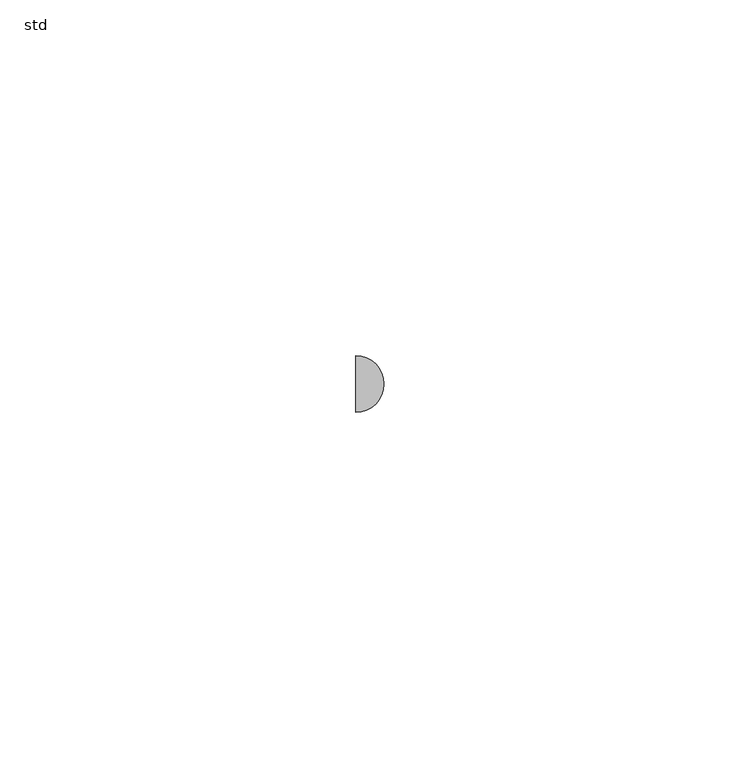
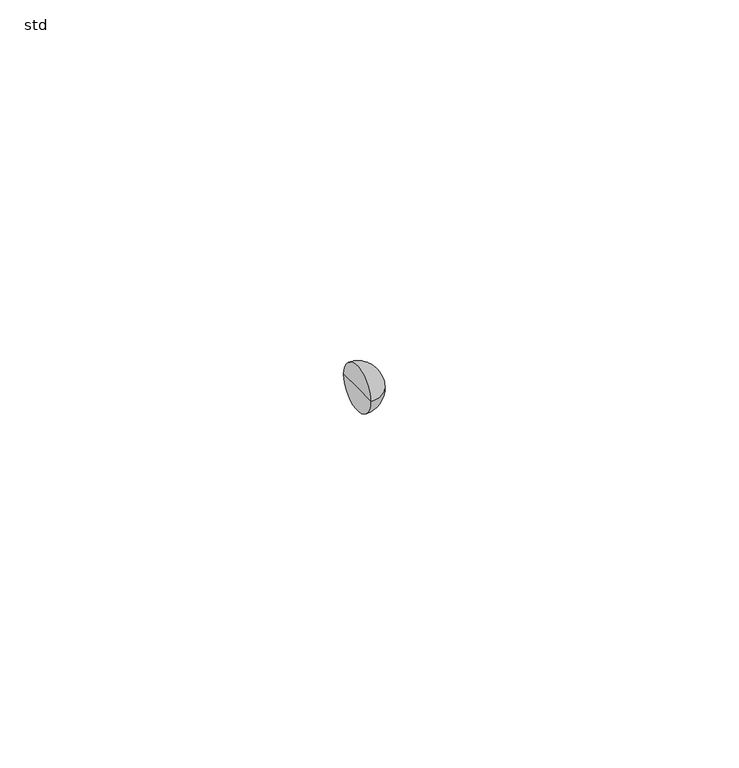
"""IFC4 building model written with IfcOpenShell, lengths in millimetres: pipe fitting geometry, PIF_ST_UN_GM-X double bend_ACO : std."""

from ifc_helpers import new_model, si_unit, point, frame, origin, place, context, project, spatial, circle_curve, ellipse_curve, trimmed, source, transform, mapped, element, save
from ifc_brep_helpers import plane_surface, revolved_surface, advanced_brep


def std_23606c27(model_context):
    return source(origin(), model_context, "Body", "AdvancedBrep", [
        advanced_brep(
        [(-256.2411614, -4.0, 0.0), (-256.2411614, 4.0, 0.0), (-252.2411614, 0.0, 0.0), (-256.2411614, 0.0, 0.0)],
        [
            (0, 1, circle_curve(frame((-256.2411614, 0.0, 0.0), z_axis=(1.0, 0.0, 0.0), x_axis=(0.0, 1.0, 0.0)), 4.0)),
            (1, 2, circle_curve(frame((-256.2411614, 0.0, 0.0), z_axis=(0.0, 0.0, -1.0), x_axis=(-1.0, 0.0, 0.0)), 4.0)),
            (2, 0, circle_curve(frame((-256.2411614, 0.0, 0.0), z_axis=(0.0, 0.0, -1.0), x_axis=(-1.0, 0.0, 0.0)), 4.0)),
            (1, 0, circle_curve(frame((-256.2411614, 0.0, 0.0), z_axis=(1.0, 0.0, 0.0), x_axis=(0.0, 1.0, 0.0)), 4.0)),
            (3, 1),
            (0, 3),
        ],
        [
            revolved_surface(trimmed(ellipse_curve(frame((-256.2411614, 0.0, 0.0), z_axis=(0.0, 0.0, 1.0), x_axis=(-1.0, 0.0, 0.0)), 4.0, 4.0), [point((-252.2411614, 0.0, 0.0))], [point((-256.2411614, 4.0, 0.0))], True, "CARTESIAN"), (-263.2328388, 0.0, 0.0), (-1.0, 0.0, 0.0)),
            plane_surface(frame((-256.2411614, 0.0, 0.0), z_axis=(-1.0, 0.0, 0.0), x_axis=(0.0, 1.0, 0.0))),
        ],
        [
            (0, [[1, 2, 3]]),
            (0, [[4, -3, -2]]),
            (1, [[5, -1, 6]]),
            (1, [[-6, -4, -5]]),
        ],
    ),
    ])


if __name__ == "__main__":
    model = new_model("IFC4")
    model_context = context("Model", 3, world=origin())
    ifc_project = project(units=[si_unit("LENGTHUNIT", "METRE", prefix="MILLI")], contexts=[model_context])
    site = spatial("IfcSite", under=ifc_project)
    building = spatial("IfcBuilding", under=site)
    placement = place(None, origin())
    std_shape = std_23606c27(model_context)
    element("IfcPipeFitting", 1, ObjectType="PIF_ST_UN_GM-X double bend_ACO : std", at=placement, inside=building, context=model_context, shape_type="MappedRepresentation", body=[
        mapped(std_shape, transform((0.0, 0.0, 0.0), x_axis=(1.0, 0.0, 0.0), y_axis=(0.0, 1.0, 0.0), z_axis=(0.0, 0.0, 1.0))),
    ])
    save(model, "model.ifc")
